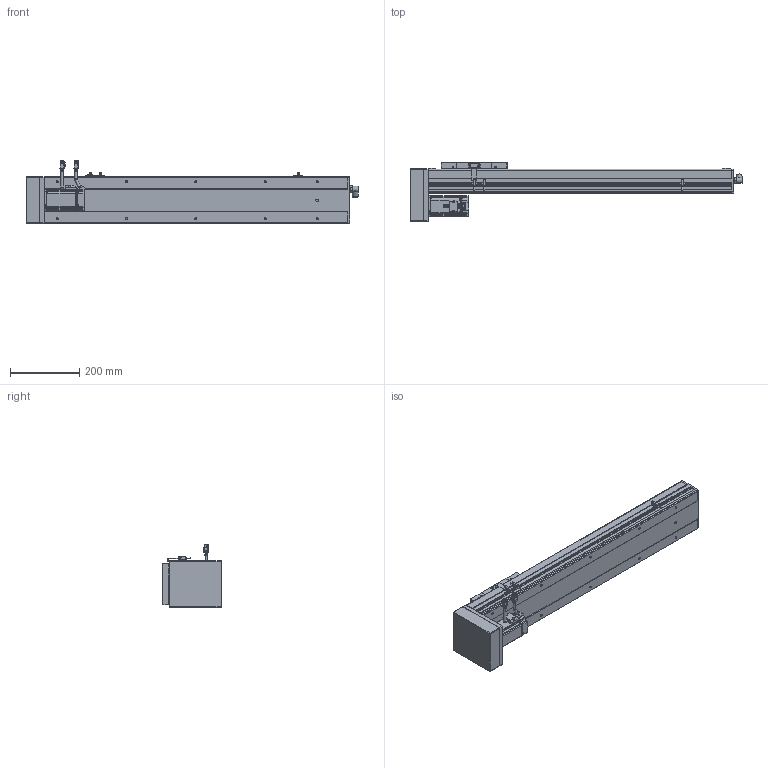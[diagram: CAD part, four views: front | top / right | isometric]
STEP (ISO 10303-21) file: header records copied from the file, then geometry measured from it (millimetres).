
FILE_DESCRIPTION(/* description */ ('STEP AP214'),/* implementation_level */ '2;1');
FILE_NAME(/* name */ 'PSC140-L05-S600-BM-P40-C1-N(0-P)',/* time_stamp */ '2022-06-13T03:21:02+02:00',/* author */ ('License CC BY-ND 4.0'),/* organization */ ('CADENAS'),/* preprocessor_version */ 'ST-DEVELOPER v18.102',/* originating_system */ 'PARTsolutions',/* authorisation */ ' ');
FILE_SCHEMA (('AUTOMOTIVE_DESIGN {1 0 10303 214 3 1 1}'));
Length unit declared in the file: millimetre
Products named in the file (11): PSC140-L05-S600-BM-P40-C1-N(0-P); P40-s2; P40-c2; P40-s1; P40-c1; P40-p1; PSC140-BM-body2; PSC140-sensor; PSC140-BM-SLIDER; PSC140-S600-BM-P40-C1-P_BODY1; PSC140-L05-S600-BM-P40-C1-N(0-P)_dummy
Assembly tree (12 placements, depth 2):
  PSC140-L05-S600-BM-P40-C1-N(0-P)
    P40-s2
    P40-c2
    P40-s1
    P40-c1
    P40-p1
    PSC140-BM-body2
    PSC140-sensor  x3
    PSC140-BM-SLIDER
    PSC140-S600-BM-P40-C1-P_BODY1
    PSC140-L05-S600-BM-P40-C1-N(0-P)_dummy
Bounding box: 958 x 171.5 x 182.48 mm (x, y, z)
Volume: 10192465.1 mm3; surface area: 616456.1 mm2
Topology: 12 solids, 12 shells, 1233 faces, 3187 edges, 2109 vertices
Faces by surface type: plane 860, cylinder 316, cone 38, torus 19
Full cylindrical faces by diameter (mm): 1 x8, 2.6 x10, 2.8 x3, 3.3 x8, 4.5 x12, 4.6 x3, 4.917 x14, 5 x4, 5.5 x8, 6 x11, 7 x10, 9 x2, 10 x1, 11 x1, 12 x1, 13.74 x1, 14 x1, 16.4 x2, 16.5 x1, 36 x1, 50 x2
Entity records: 34152 total; most frequent: CARTESIAN_POINT 5966, DIRECTION 5741, ORIENTED_EDGE 5550, EDGE_CURVE 2775, LINE 2105, VECTOR 2105, VERTEX_POINT 1928, AXIS2_PLACEMENT_3D 1818
